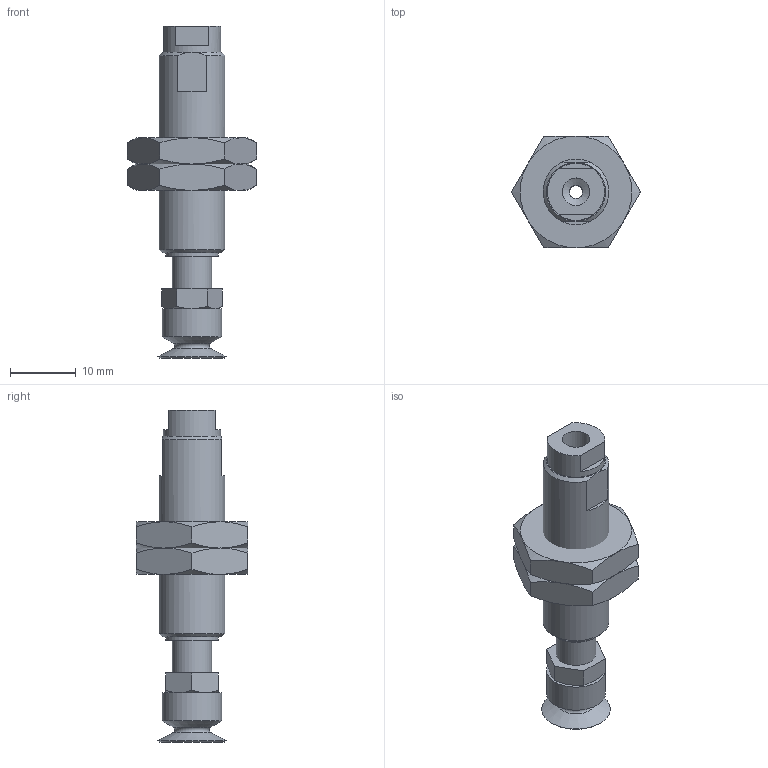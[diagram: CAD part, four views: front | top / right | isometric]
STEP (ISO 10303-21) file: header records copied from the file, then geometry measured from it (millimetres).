
FILE_DESCRIPTION(('STEP AP203'),'1');
FILE_NAME('-LB.stp','2025-03-28T07:24:08',(' '),(' '),'Spatial InterOp 3D',' ',' ');
FILE_SCHEMA(('CONFIG_CONTROL_DESIGN'));
Length unit declared in the file: millimetre
Products named in the file (8): BNAPFTH-10A-5-※-LB; __; BODY; NUT; TN-PS-10-M5; Setting screws-TN-PS-10-M5; BPAG-10A-※
Assembly tree (7 placements, depth 3):
  BNAPFTH-10A-5-※-LB
    __
    BODY
    NUT
    NUT
    TN-PS-10-M5
      Setting screws-TN-PS-10-M5
    BPAG-10A-※
Bounding box: 19.63 x 17 x 50.5 mm (x, y, z)
Volume: 4537.1 mm3; surface area: 4032.6 mm2
Topology: 6 solids, 6 shells, 158 faces, 313 edges, 191 vertices
Faces by surface type: plane 74, cone 41, cylinder 34, torus 9
Full cylindrical faces by diameter (mm): 0.9 x16, 2 x3, 3.9 x1, 4 x2, 4.2 x2, 5 x1, 6 x3, 8 x1, 8.7 x1, 9 x3, 10 x1
Entity records: 4254 total; most frequent: CARTESIAN_POINT 837, DIRECTION 652, ORIENTED_EDGE 508, AXIS2_PLACEMENT_3D 295, EDGE_CURVE 254, EDGE_LOOP 246, FACE_OUTER_BOUND 201, VERTEX_POINT 184
